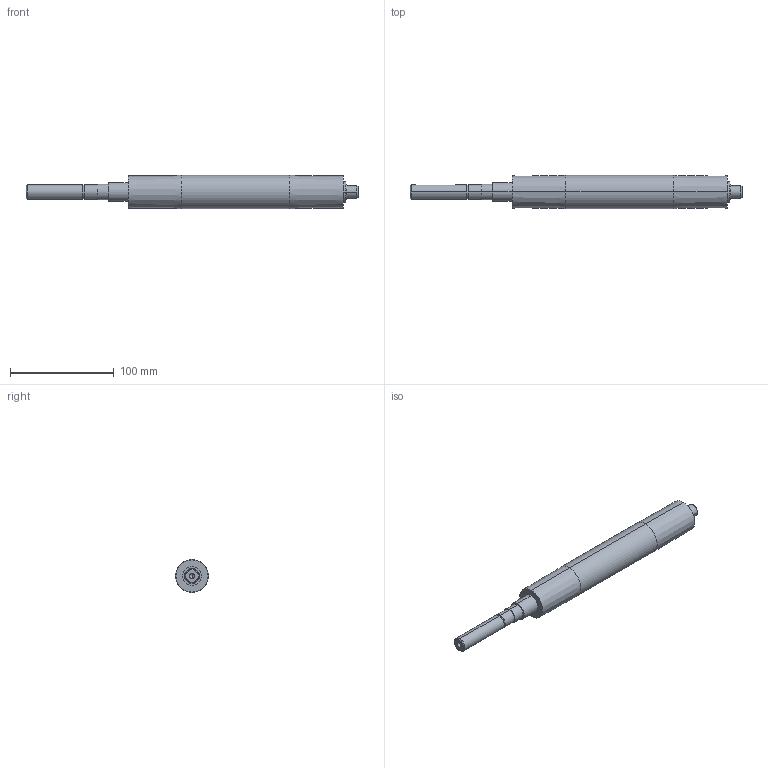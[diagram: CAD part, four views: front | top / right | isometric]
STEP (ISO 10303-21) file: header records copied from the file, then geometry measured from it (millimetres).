
FILE_DESCRIPTION (( 'STEP AP214' ), '1' );
FILE_NAME ('084.030.136.STEP', '2021-02-05T15:43:11', ( '' ), ( '' ), 'SwSTEP 2.0', 'SolidWorks 2018', '' );
FILE_SCHEMA (( 'AUTOMOTIVE_DESIGN' ));
Length unit declared in the file: millimetre
Products named in the file (1): 084.030.136
Bounding box: 320.5 x 32 x 32 mm (x, y, z)
Volume: 182989.1 mm3; surface area: 27967.2 mm2
Topology: 1 solids, 1 shells, 45 faces, 92 edges, 57 vertices
Faces by surface type: cylinder 22, plane 13, cone 10
Entity records: 1296 total; most frequent: CARTESIAN_POINT 255, DIRECTION 230, ORIENTED_EDGE 180, AXIS2_PLACEMENT_3D 96, EDGE_CURVE 90, VERTEX_POINT 57, EDGE_LOOP 55, CIRCLE 50
